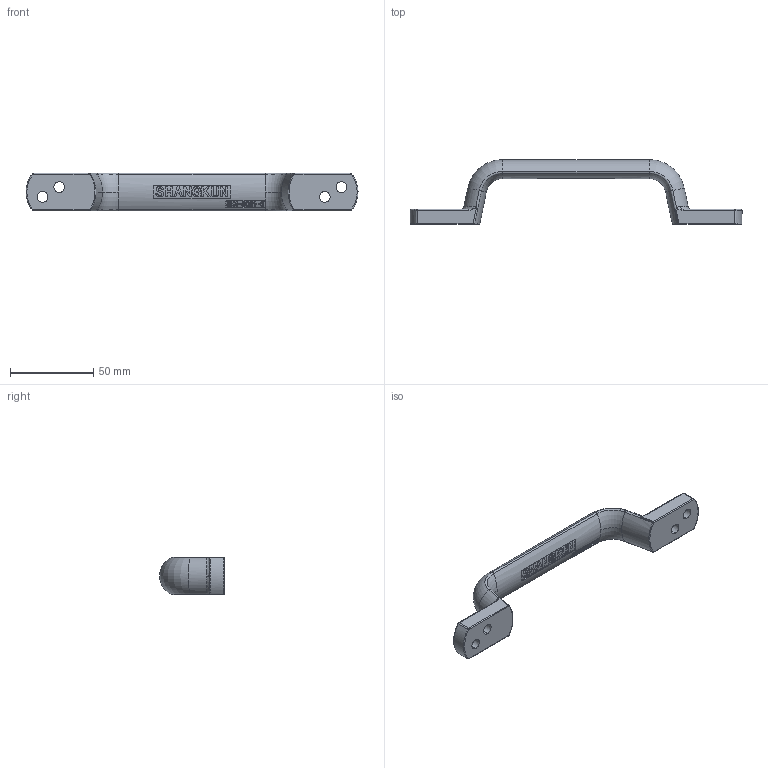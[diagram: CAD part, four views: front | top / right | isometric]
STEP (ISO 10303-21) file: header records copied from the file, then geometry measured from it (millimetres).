
FILE_DESCRIPTION (( 'STEP AP203' ), '1' );
FILE_NAME ('SK4-8081-3.STEP', '2018-11-02T05:38:42', ( 'admin' ), ( 'Microsoft' ), 'SwSTEP 2.0', 'SolidWorks 2015', '' );
FILE_SCHEMA (( 'CONFIG_CONTROL_DESIGN' ));
Length unit declared in the file: millimetre
Products named in the file (1): SK4-8081-3
Bounding box: 199.99 x 39 x 22.5 mm (x, y, z)
Volume: 43831.6 mm3; surface area: 14190.3 mm2
Topology: 1 solids, 1 shells, 333 faces, 853 edges, 546 vertices
Faces by surface type: bspline 120, plane 118, cylinder 69, torus 18, cone 8
Entity records: 20752 total; most frequent: CARTESIAN_POINT 13543, ORIENTED_EDGE 1696, DIRECTION 1144, EDGE_CURVE 848, VERTEX_POINT 546, AXIS2_PLACEMENT_3D 422, EDGE_LOOP 370, FACE_OUTER_BOUND 333
